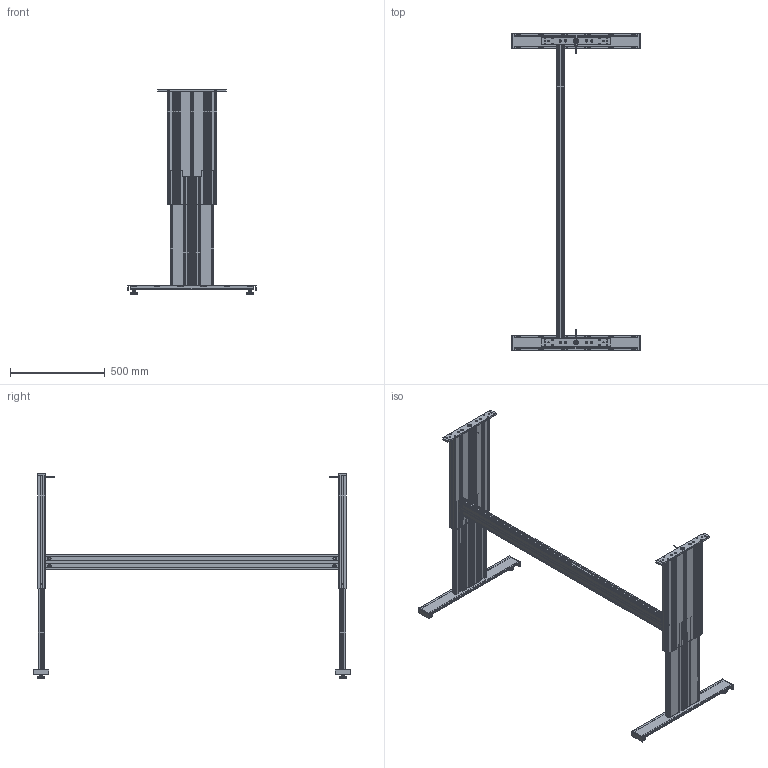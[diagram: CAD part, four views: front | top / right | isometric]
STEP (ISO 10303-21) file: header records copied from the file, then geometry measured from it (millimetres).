
FILE_DESCRIPTION(/* description */ ('Unknown'),/* implementation_level */ '2;1');
FILE_NAME(/* name */ '108.00184 Untergestell TT-2 1440 1590_ausgefahren',/* time_stamp */ '2017-11-24T15:28:32+01:00',/* author */ ('Unknown'),/* organization */ ('Unknown'),/* preprocessor_version */ 'ST-DEVELOPER v16.7',/* originating_system */ 'DEX',/* authorisation */ $);
FILE_SCHEMA (('AUTOMOTIVE_DESIGN {1 0 10303 214 3 1 1}'));
Products named in the file (30): 108.00184; 106.00315_oa_0; 119.00201; 119.00152; 124.00004; 142.00188; 142.00166; 142.00031; 126.00102; 107.00027_oa_1; 115.00007_oa_2; 125.00021; 125.00033; 113.00002_70mm; 106.00315_oa_3; 107.00027_oa_4; 115.00007_oa_5; 115.00094; 119.00174; 142.00207; 127.00515; 127.00520; 127.00556; 127.00557; 127.00520_461_469_Kehlnaht 1_oa_6; 113.00095; 113.00099; 113.00096; 113.00097; 113.00098
Assembly tree (52 placements, depth 5):
  108.00184
    106.00315_oa_0
      119.00201
      119.00152
      124.00004
      142.00188  x2
      142.00166  x4
      142.00031
      126.00102
      107.00027_oa_1
        115.00007_oa_2
        125.00021
        125.00033
      113.00002_70mm
    106.00315_oa_3
      119.00201
      119.00152
      124.00004
      142.00188  x2
      142.00166  x4
      142.00031
      126.00102
      107.00027_oa_4
        115.00007_oa_5
        125.00021
        125.00033
      113.00002_70mm
    115.00094
      119.00174
      142.00207  x4
    127.00515  x2
      127.00520
        127.00556
        127.00557
        127.00520_461_469_Kehlnaht 1_oa_6
      113.00095
        113.00099
        113.00096
          113.00097
          113.00098
Bounding box: 680 x 1670 x 1076.5 mm (x, y, z)
Volume: 7880066.8 mm3; surface area: 5640159.9 mm2
Topology: 73 solids, 81 shells, 4900 faces, 13928 edges, 9258 vertices
Faces by surface type: plane 3044, cylinder 1552, cone 196, torus 76, bspline 24, sphere 8
Full cylindrical faces by diameter (mm): 1.8 x4, 2.2 x2, 2.78 x2, 3.242 x4, 3.5 x2, 4 x6, 4.1 x2, 4.2 x2, 5 x12, 5.5 x8, 6.6 x8, 6.647 x16, 6.917 x4, 7.5 x4, 8 x18, 8.376 x6, 8.5 x20, 8.7 x8, 9 x2, 10 x8, 11.3 x8, 12 x6, 12.5 x10, 13 x4, 13.5 x6, 13.7 x2, 13.9 x4, 18 x16, 25 x10, 27.2 x4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
Entity records: 85503 total; most frequent: CARTESIAN_POINT 14627, ORIENTED_EDGE 13082, DIRECTION 12735, EDGE_CURVE 6541, LINE 4481, VECTOR 4481, VERTEX_POINT 4431, AXIS2_PLACEMENT_3D 4127
